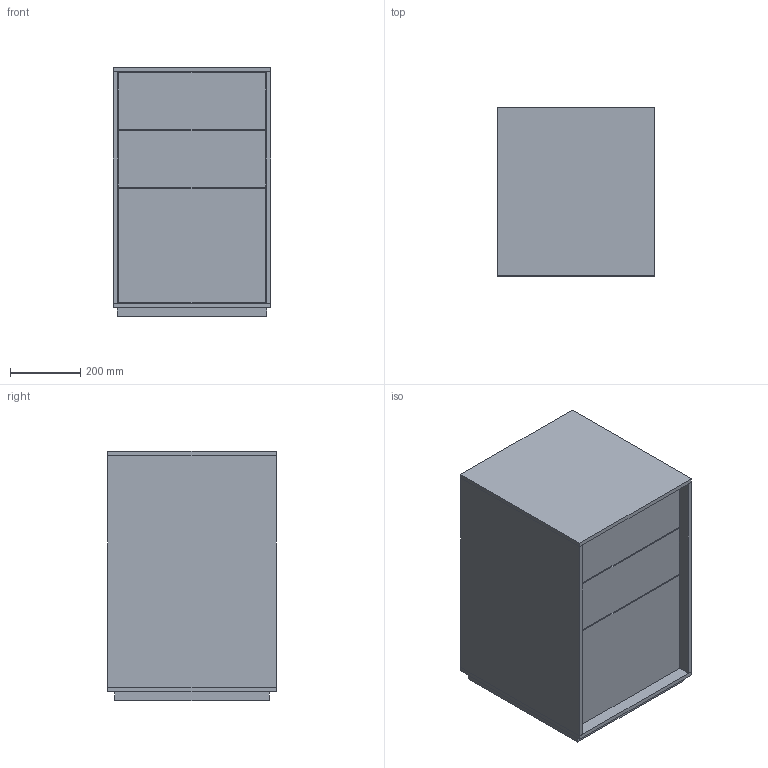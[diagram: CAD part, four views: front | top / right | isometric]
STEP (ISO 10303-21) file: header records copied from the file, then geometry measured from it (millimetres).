
FILE_DESCRIPTION(/* description */ (''),/* implementation_level */ '2;1');
FILE_NAME(/* name */ 'CF05 - Luminare Cassettiera H73 folder',/* time_stamp */ '2012-06-20T17:19:27+02:00',/* author */ (''),/* organization */ (''),/* preprocessor_version */ 'ST-DEVELOPER v10',/* originating_system */ '',/* authorisation */ '');
FILE_SCHEMA (('CONFIG_CONTROL_DESIGN'));
Length unit declared in the file: centimetre
Products named in the file (1): 1
Bounding box: 450 x 480 x 710 mm (x, y, z)
Volume: 35365411.2 mm3; surface area: 5720127.2 mm2
Topology: 13 solids, 13 shells, 78 faces, 156 edges, 104 vertices
Faces by surface type: plane 78
Entity records: 1808 total; most frequent: CARTESIAN_POINT 496, ORIENTED_EDGE 312, EDGE_CURVE 156, B_SPLINE_CURVE_WITH_KNOTS 156, VERTEX_POINT 104, DIRECTION 82, AXIS2_PLACEMENT_3D 80, ADVANCED_FACE 78
